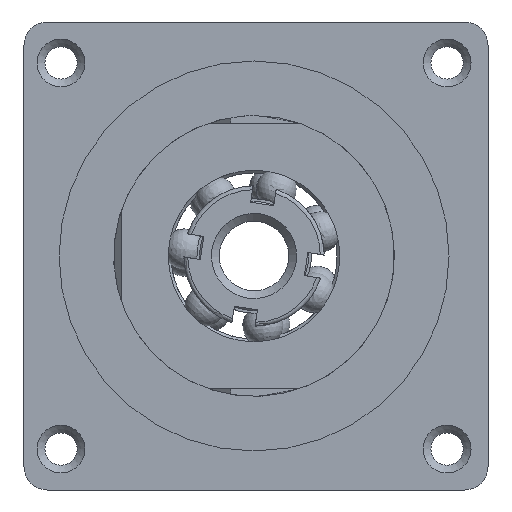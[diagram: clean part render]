
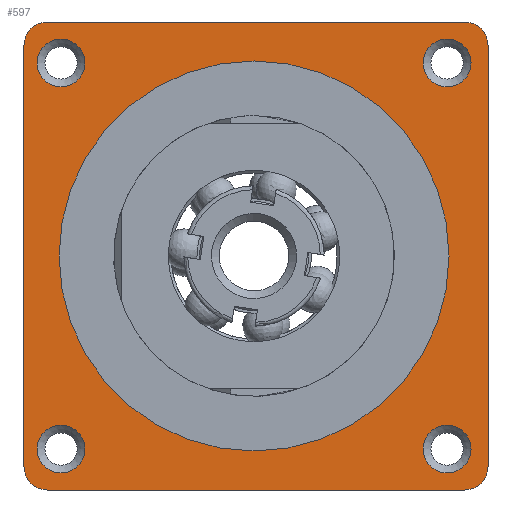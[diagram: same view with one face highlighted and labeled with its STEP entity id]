
A CAD part, left-side view. The second image highlights one B-rep face of the part: STEP entity #597.
In plain terms, the highlighted planar face has unit normal (-1, 0, 0).
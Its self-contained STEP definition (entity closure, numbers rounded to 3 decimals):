
#597=ADVANCED_FACE('',(#3290,#3292,#3294,#3296,#3298,#3300),#3302,.T.);
#3290=FACE_BOUND('',#3291,.T.);
#3291=EDGE_LOOP('',(#5610,#5611,#5612,#5613,#5614,#5615,#5616,#5617));
#3292=FACE_BOUND('',#3293,.T.);
#3293=EDGE_LOOP('',(#5618));
#3294=FACE_BOUND('',#3295,.T.);
#3295=EDGE_LOOP('',(#5619));
#3296=FACE_BOUND('',#3297,.T.);
#3297=EDGE_LOOP('',(#5620));
#3298=FACE_BOUND('',#3299,.T.);
#3299=EDGE_LOOP('',(#5621));
#3300=FACE_BOUND('',#3301,.T.);
#3301=EDGE_LOOP('',(#5622));
#3302=PLANE('',#3303);
#3303=AXIS2_PLACEMENT_3D('',#3304,#3305,#3306);
#3304=CARTESIAN_POINT('',(-10.,59.5,-30.));
#3305=DIRECTION('',(-1.,0.,0.));
#3306=DIRECTION('',(0.,-1.,0.));
#5610=ORIENTED_EDGE('',*,*,#6713,.F.);
#5611=ORIENTED_EDGE('',*,*,#6659,.F.);
#5612=ORIENTED_EDGE('',*,*,#6714,.F.);
#5613=ORIENTED_EDGE('',*,*,#6715,.F.);
#5614=ORIENTED_EDGE('',*,*,#6716,.F.);
#5615=ORIENTED_EDGE('',*,*,#6632,.T.);
#5616=ORIENTED_EDGE('',*,*,#6717,.F.);
#5617=ORIENTED_EDGE('',*,*,#6711,.T.);
#5618=ORIENTED_EDGE('',*,*,#6718,.T.);
#5619=ORIENTED_EDGE('',*,*,#6719,.T.);
#5620=ORIENTED_EDGE('',*,*,#6720,.T.);
#5621=ORIENTED_EDGE('',*,*,#6721,.T.);
#5622=ORIENTED_EDGE('',*,*,#6722,.T.);
#6632=EDGE_CURVE('',#7240,#7238,#7241,.T.);
#6659=EDGE_CURVE('',#7290,#7292,#7293,.T.);
#6711=EDGE_CURVE('',#7377,#7375,#7378,.T.);
#6713=EDGE_CURVE('',#7292,#7375,#7380,.F.);
#6714=EDGE_CURVE('',#7381,#7290,#7382,.F.);
#6715=EDGE_CURVE('',#7383,#7381,#7384,.T.);
#6716=EDGE_CURVE('',#7240,#7383,#7385,.F.);
#6717=EDGE_CURVE('',#7377,#7238,#7386,.F.);
#6718=EDGE_CURVE('',#7387,#7387,#7388,.F.);
#6719=EDGE_CURVE('',#7389,#7389,#7390,.F.);
#6720=EDGE_CURVE('',#7391,#7391,#7392,.F.);
#6721=EDGE_CURVE('',#7393,#7393,#7394,.F.);
#6722=EDGE_CURVE('',#7395,#7395,#7396,.F.);
#7238=VERTEX_POINT('',#8330);
#7240=VERTEX_POINT('',#8334);
#7241=LINE('',#8335,#8336);
#7290=VERTEX_POINT('',#8441);
#7292=VERTEX_POINT('',#8445);
#7293=LINE('',#8446,#8447);
#7375=VERTEX_POINT('',#8691);
#7377=VERTEX_POINT('',#8695);
#7378=LINE('',#8696,#8697);
#7380=CIRCLE('',#8702,3.);
#7381=VERTEX_POINT('',#8706);
#7382=CIRCLE('',#8707,3.);
#7383=VERTEX_POINT('',#8711);
#7384=LINE('',#8712,#8713);
#7385=CIRCLE('',#8715,3.);
#7386=CIRCLE('',#8719,3.);
#7387=VERTEX_POINT('',#8723);
#7388=CIRCLE('',#8724,3.067);
#7389=VERTEX_POINT('',#8728);
#7390=CIRCLE('',#8729,3.067);
#7391=VERTEX_POINT('',#8733);
#7392=CIRCLE('',#8734,25.);
#7393=VERTEX_POINT('',#8738);
#7394=CIRCLE('',#8739,3.067);
#7395=VERTEX_POINT('',#8743);
#7396=CIRCLE('',#8744,3.067);
#8330=CARTESIAN_POINT('',(-10.,3.,-30.));
#8334=CARTESIAN_POINT('',(-10.,56.5,-30.));
#8335=CARTESIAN_POINT('',(-10.,56.5,-30.));
#8336=VECTOR('',#8337,1.);
#8337=DIRECTION('',(0.,-1.,0.));
#8441=CARTESIAN_POINT('',(-10.,56.5,30.));
#8445=CARTESIAN_POINT('',(-10.,3.,30.));
#8446=CARTESIAN_POINT('',(-10.,56.5,30.));
#8447=VECTOR('',#8448,1.);
#8448=DIRECTION('',(0.,-1.,0.));
#8691=CARTESIAN_POINT('',(-10.,0.,27.));
#8695=CARTESIAN_POINT('',(-10.,0.,-27.));
#8696=CARTESIAN_POINT('',(-10.,0.,-27.));
#8697=VECTOR('',#8698,1.);
#8698=DIRECTION('',(0.,0.,1.));
#8702=AXIS2_PLACEMENT_3D('',#8703,#8704,#8705);
#8703=CARTESIAN_POINT('',(-10.,3.,27.));
#8704=DIRECTION('',(-1.,0.,0.));
#8705=DIRECTION('',(0.,-1.,0.));
#8706=CARTESIAN_POINT('',(-10.,59.5,27.));
#8707=AXIS2_PLACEMENT_3D('',#8708,#8709,#8710);
#8708=CARTESIAN_POINT('',(-10.,56.5,27.));
#8709=DIRECTION('',(-1.,0.,0.));
#8710=DIRECTION('',(0.,0.,1.));
#8711=CARTESIAN_POINT('',(-10.,59.5,-27.));
#8712=CARTESIAN_POINT('',(-10.,59.5,-27.));
#8713=VECTOR('',#8714,1.);
#8714=DIRECTION('',(0.,0.,1.));
#8715=AXIS2_PLACEMENT_3D('',#8716,#8717,#8718);
#8716=CARTESIAN_POINT('',(-10.,56.5,-27.));
#8717=DIRECTION('',(-1.,0.,0.));
#8718=DIRECTION('',(0.,1.,0.));
#8719=AXIS2_PLACEMENT_3D('',#8720,#8721,#8722);
#8720=CARTESIAN_POINT('',(-10.,3.,-27.));
#8721=DIRECTION('',(-1.,0.,0.));
#8722=DIRECTION('',(0.,0.,-1.));
#8723=CARTESIAN_POINT('',(-10.,8.318,-24.749));
#8724=AXIS2_PLACEMENT_3D('',#8725,#8726,#8727);
#8725=CARTESIAN_POINT('',(-10.,5.251,-24.749));
#8726=DIRECTION('',(-1.,0.,0.));
#8727=DIRECTION('',(0.,1.,0.));
#8728=CARTESIAN_POINT('',(-10.,57.816,24.749));
#8729=AXIS2_PLACEMENT_3D('',#8730,#8731,#8732);
#8730=CARTESIAN_POINT('',(-10.,54.749,24.749));
#8731=DIRECTION('',(-1.,0.,0.));
#8732=DIRECTION('',(0.,1.,0.));
#8733=CARTESIAN_POINT('',(-10.,30.,25.));
#8734=AXIS2_PLACEMENT_3D('',#8735,#8736,#8737);
#8735=CARTESIAN_POINT('',(-10.,30.,0.));
#8736=DIRECTION('',(-1.,0.,0.));
#8737=DIRECTION('',(0.,0.,1.));
#8738=CARTESIAN_POINT('',(-10.,57.816,-24.749));
#8739=AXIS2_PLACEMENT_3D('',#8740,#8741,#8742);
#8740=CARTESIAN_POINT('',(-10.,54.749,-24.749));
#8741=DIRECTION('',(-1.,0.,0.));
#8742=DIRECTION('',(0.,1.,0.));
#8743=CARTESIAN_POINT('',(-10.,8.318,24.749));
#8744=AXIS2_PLACEMENT_3D('',#8745,#8746,#8747);
#8745=CARTESIAN_POINT('',(-10.,5.251,24.749));
#8746=DIRECTION('',(-1.,0.,0.));
#8747=DIRECTION('',(0.,1.,0.));
